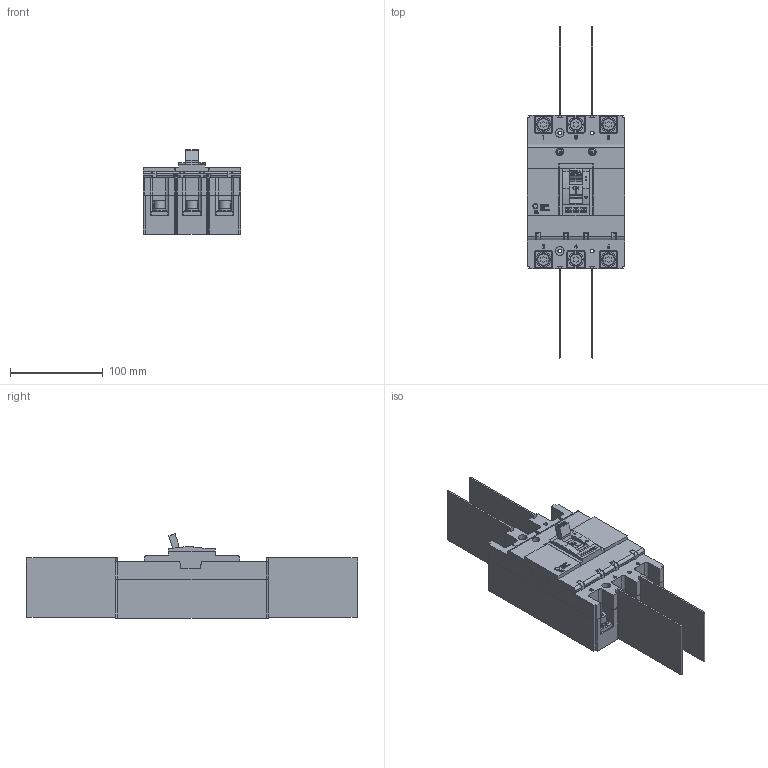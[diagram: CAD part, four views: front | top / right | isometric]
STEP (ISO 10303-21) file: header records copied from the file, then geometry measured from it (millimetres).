
FILE_DESCRIPTION (( 'STEP AP203' ), '1' );
FILE_NAME ('DCM250S3.STEP', '2018-08-29T15:51:50', ( '' ), ( '' ), 'SwSTEP 2.0', 'SolidWorks 2012', '' );
FILE_SCHEMA (( 'CONFIG_CONTROL_DESIGN' ));
Length unit declared in the file: millimetre
Products named in the file (1): DCM250S3
Bounding box: 105.3 x 357 x 90.62 mm (x, y, z)
Volume: 1115086.1 mm3; surface area: 174455.2 mm2
Topology: 9 solids, 9 shells, 1217 faces, 3182 edges, 2108 vertices
Faces by surface type: plane 843, bspline 214, cylinder 154, torus 6
Entity records: 50202 total; most frequent: CARTESIAN_POINT 21365, ORIENTED_EDGE 6364, DIRECTION 5046, EDGE_CURVE 3182, LINE 2370, VECTOR 2370, VERTEX_POINT 2108, EDGE_LOOP 1358
